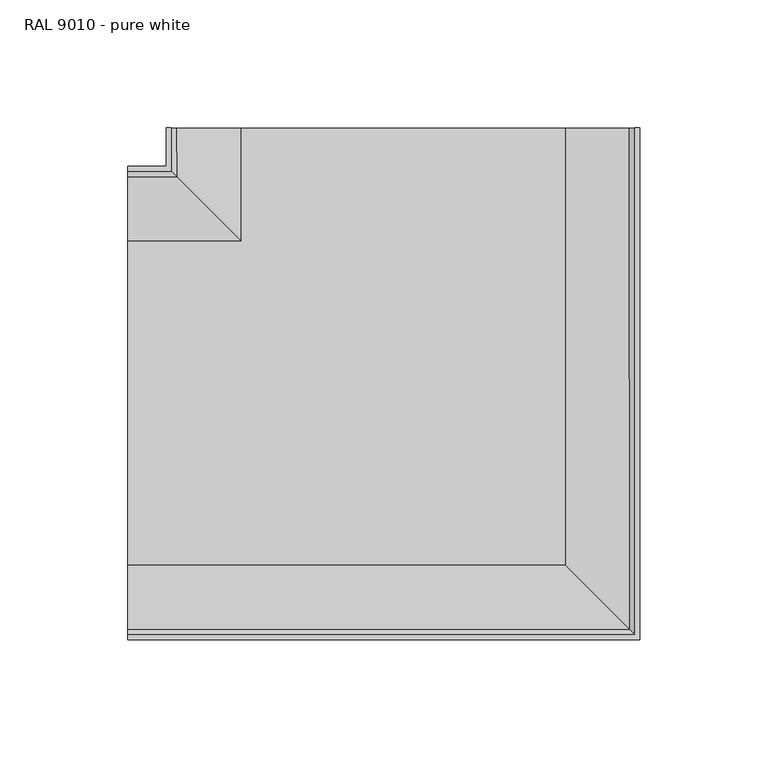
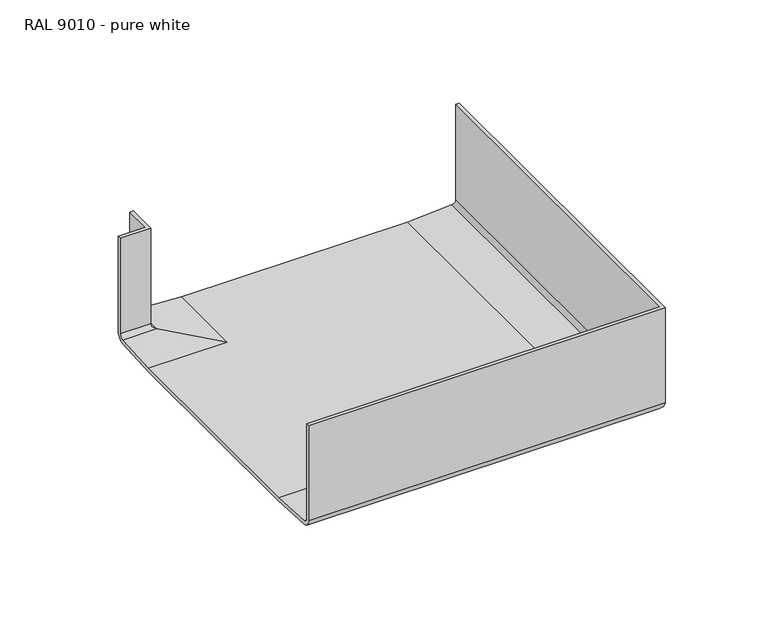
"""IFC4 building model written with IfcOpenShell, lengths in millimetres: cable carrier fitting geometry, Electrical_Installations_Hager_GBD-Flat-Corner-Vertical-Inside-And-Outside-Bend-Curved : RAL 9010 - pure white."""

from ifc_helpers import new_model, si_unit, frame, origin, place, context, project, spatial, polyline, circle_curve, ellipse_curve, source, transform, mapped, element, save
from ifc_brep_helpers import plane_surface, cylinder_surface, revolved_surface, advanced_brep


def ral_9010_pure_white_58f84067(model_context):
    return source(origin(), model_context, "Body", "AdvancedBrep", [
        advanced_brep(
        [(-107.5, 62.3133024, -34.957916), (-107.5, -62.3629789, -34.957916), (-107.5, -88.4370768, -33.406396), (-107.5, -92.5248383, -29.0681648), (-107.5, -92.5248383, 27.521231), (-107.5, -90.5727353, 27.521231), (-107.5, -90.5727353, -29.0681648), (-107.5, -88.4329395, -31.4049977), (-107.5, -63.3540421, -32.926666), (-107.5, 63.3043655, -32.926666), (-107.5, 88.319149, -31.4097682), (-107.5, 90.5139434, -29.0681648), (-107.5, 90.5139434, 27.6254199), (-107.5, 92.4751617, 27.6254199), (-107.5, 92.4751617, -29.0681648), (-107.5, 88.511084, -33.3972636), (-62.3133024, 62.3133024, -34.957916), (-62.3133024, 107.5, -34.957916), (62.3629789, 107.5, -34.957916), (62.3629789, -62.3629789, -34.957916), (88.4370768, -88.4370768, -33.406396), (92.5248383, -92.5248383, -29.0681648), (92.5248383, -92.5248383, 27.521231), (92.5248383, 107.5, 27.521231), (90.5727353, 107.5, 27.521231), (90.5727353, -90.5727353, 27.521231), (90.5727353, -90.5727353, -29.0681648), (88.4329395, -88.4329395, -31.4049977), (63.3540421, -63.3540421, -32.926666), (63.3540421, 107.5, -32.926666), (-63.3043655, 107.5, -32.926666), (-63.3043655, 63.3043655, -32.926666), (-88.319149, 88.319149, -31.4097682), (-90.5139434, 90.5139434, -29.0681648), (-90.5139434, 90.5139434, 27.6254199), (-90.5139434, 107.5, 27.6254199), (-92.4751617, 107.5, 27.6254199), (-92.4751617, 92.4751617, 27.6254199), (-92.4751617, 92.4751617, -29.0681648), (-88.511084, 88.511084, -33.3972636), (-88.3874003, 107.5, -33.406396), (-92.4751617, 107.5, -29.0681648), (-90.5139434, 107.5, -29.0681648), (-88.3741476, 107.5, -31.4049977), (88.3688255, 107.5, -31.4097682), (90.5727353, 107.5, -29.0681648), (92.5248383, 107.5, -29.0681648), (88.5607605, 107.5, -33.3972636)],
        [
            (0, 1),
            (1, 2, circle_curve(frame((-107.5, -58.0707654, 257.0450878), z_axis=(-1.0, 0.0, 0.0), x_axis=(0.0, 0.0, 1.0)), 292.0345481)),
            (2, 3, circle_curve(frame((-107.5, -88.1789336, -29.0681648), z_axis=(-1.0, 0.0, 0.0), x_axis=(0.0, 0.0, 1.0)), 4.3459047)),
            (3, 4),
            (4, 5),
            (5, 6),
            (6, 7, circle_curve(frame((-107.5, -88.2268306, -29.0681648), z_axis=(1.0, 0.0, 0.0), x_axis=(0.0, 0.0, 1.0)), 2.3459047)),
            (7, 8, circle_curve(frame((-107.5, -58.8389631, 248.5451055), z_axis=(1.0, 0.0, 0.0), x_axis=(0.0, 0.0, 1.0)), 281.5079822)),
            (8, 9),
            (9, 10, circle_curve(frame((-107.5, 58.7892866, 248.5451055), z_axis=(1.0, 0.0, 0.0), x_axis=(0.0, 0.0, 1.0)), 281.5079822)),
            (10, 11, circle_curve(frame((-107.5, 88.1680387, -29.0681648), z_axis=(1.0, 0.0, 0.0), x_axis=(0.0, 0.0, 1.0)), 2.3459047)),
            (11, 12),
            (12, 13),
            (13, 14),
            (14, 15, circle_curve(frame((-107.5, 88.129257, -29.0681648), z_axis=(-1.0, 0.0, 0.0), x_axis=(0.0, 0.0, 1.0)), 4.3459047)),
            (15, 0, circle_curve(frame((-107.5, 58.0210889, 257.0450878), z_axis=(-1.0, 0.0, 0.0), x_axis=(0.0, 0.0, 1.0)), 292.0345481)),
            (0, 16),
            (16, 17),
            (17, 18),
            (18, 19),
            (19, 1),
            (19, 20, ellipse_curve(frame((58.0707654, -58.0707654, 257.0450878), z_axis=(-0.7071067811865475, -0.7071067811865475, 0.0), x_axis=(-0.7071067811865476, 0.7071067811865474, 0.0)), 412.9992186, 292.0345481)),
            (20, 2),
            (20, 21, ellipse_curve(frame((88.1789336, -88.1789336, -29.0681648), z_axis=(-0.7071067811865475, -0.7071067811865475, 0.0), x_axis=(-0.7071067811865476, 0.7071067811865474, 0.0)), 6.1460374, 4.3459047)),
            (21, 3),
            (21, 22),
            (22, 4),
            (22, 23),
            (23, 24),
            (24, 25),
            (25, 5),
            (25, 26),
            (26, 6),
            (26, 27, ellipse_curve(frame((88.2268306, -88.2268306, -29.0681648), z_axis=(0.7071067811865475, 0.7071067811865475, 0.0), x_axis=(0.7071067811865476, -0.7071067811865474, 0.0)), 3.3176103, 2.3459047)),
            (27, 7),
            (27, 28, ellipse_curve(frame((58.8389631, -58.8389631, 248.5451055), z_axis=(0.7071067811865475, 0.7071067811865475, 0.0), x_axis=(0.7071067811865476, -0.7071067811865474, 0.0)), 398.1124064, 281.5079822)),
            (28, 8),
            (28, 29),
            (29, 30),
            (30, 31),
            (31, 9),
            (31, 32, ellipse_curve(frame((-58.7892866, 58.7892866, 248.5451055), z_axis=(0.7071067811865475, 0.7071067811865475, 0.0), x_axis=(0.7071067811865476, -0.7071067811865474, 0.0)), 398.1124064, 281.5079822)),
            (32, 10),
            (32, 33, ellipse_curve(frame((-88.1680387, 88.1680387, -29.0681648), z_axis=(0.7071067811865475, 0.7071067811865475, 0.0), x_axis=(0.7071067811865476, -0.7071067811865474, 0.0)), 3.3176103, 2.3459047)),
            (33, 11),
            (33, 34),
            (34, 12),
            (34, 35),
            (35, 36),
            (36, 37),
            (37, 13),
            (37, 38),
            (38, 14),
            (38, 39, ellipse_curve(frame((-88.129257, 88.129257, -29.0681648), z_axis=(-0.7071067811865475, -0.7071067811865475, 0.0), x_axis=(-0.7071067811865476, 0.7071067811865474, 0.0)), 6.1460374, 4.3459047)),
            (39, 15),
            (39, 16, ellipse_curve(frame((-58.0210889, 58.0210889, 257.0450878), z_axis=(-0.7071067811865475, -0.7071067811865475, 0.0), x_axis=(-0.7071067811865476, 0.7071067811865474, 0.0)), 412.9992186, 292.0345481)),
            (17, 40, circle_curve(frame((-58.0210889, 107.5, 257.0450878), z_axis=(0.0, 1.0, 0.0), x_axis=(0.0, 0.0, 1.0)), 292.0345481)),
            (40, 41, circle_curve(frame((-88.129257, 107.5, -29.0681648), z_axis=(0.0, 1.0, 0.0), x_axis=(0.0, 0.0, 1.0)), 4.3459047)),
            (41, 36),
            (35, 42),
            (42, 43, circle_curve(frame((-88.1680387, 107.5, -29.0681648), z_axis=(0.0, -1.0, 0.0), x_axis=(0.0, 0.0, 1.0)), 2.3459047)),
            (43, 30, circle_curve(frame((-58.7892866, 107.5, 248.5451055), z_axis=(0.0, -1.0, 0.0), x_axis=(0.0, 0.0, 1.0)), 281.5079822)),
            (29, 44, circle_curve(frame((58.8389631, 107.5, 248.5451055), z_axis=(0.0, -1.0, 0.0), x_axis=(0.0, 0.0, 1.0)), 281.5079822)),
            (44, 45, circle_curve(frame((88.2268306, 107.5, -29.0681648), z_axis=(0.0, -1.0, 0.0), x_axis=(0.0, 0.0, 1.0)), 2.3459047)),
            (45, 24),
            (23, 46),
            (46, 47, circle_curve(frame((88.1789336, 107.5, -29.0681648), z_axis=(0.0, 1.0, 0.0), x_axis=(0.0, 0.0, 1.0)), 4.3459047)),
            (47, 18, circle_curve(frame((58.0707654, 107.5, 257.0450878), z_axis=(0.0, 1.0, 0.0), x_axis=(0.0, 0.0, 1.0)), 292.0345481)),
            (47, 20),
            (46, 21),
            (45, 26),
            (44, 27),
            (43, 32),
            (42, 33),
            (41, 38),
            (40, 39),
        ],
        [
            plane_surface(frame((-107.5, 0.0, 0.0), z_axis=(-1.0, 0.0, 0.0), x_axis=(0.0, 0.0, 1.0))),
            plane_surface(frame((-107.5, 62.3133024, -34.957916), z_axis=(0.0, 0.0, -1.0), x_axis=(1.0, 0.0, 0.0))),
            cylinder_surface(frame((-107.5, -58.0707654, 257.0450878), z_axis=(-1.0, 0.0, 0.0), x_axis=(0.0, 0.0, 1.0)), 292.0345481),
            cylinder_surface(frame((-107.5, -88.1789336, -29.0681648), z_axis=(-1.0, 0.0, 0.0), x_axis=(0.0, 0.0, 1.0)), 4.3459047),
            plane_surface(frame((-107.5, -92.5248383, -29.0681648), z_axis=(0.0, -1.0, 0.0), x_axis=(1.0, 0.0, 0.0))),
            plane_surface(frame((-107.5, -92.5248383, 27.521231), z_axis=(0.0, 0.0, 1.0), x_axis=(1.0, 0.0, 0.0))),
            plane_surface(frame((-107.5, -90.5727353, 27.521231), z_axis=(0.0, 1.0, 0.0), x_axis=(1.0, 0.0, 0.0))),
            revolved_surface(polyline([(90.57273534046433, -88.2268306, -26.7222601), (-107.5, -88.2268306, -26.7222601)]), (-107.5, -88.2268306, -29.0681648), (1.0, 0.0, 0.0)),
            revolved_surface(polyline([(340.3469453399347, -58.8389631, 530.0530877), (-222.66901913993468, -58.8389631, 530.0530877)]), (-107.5, -58.8389631, 248.5451055), (1.0, 0.0, 0.0)),
            plane_surface(frame((-107.5, -63.3540421, -32.926666), z_axis=(0.0, 0.0, 1.0), x_axis=(1.0, 0.0, 0.0))),
            revolved_surface(polyline([(222.7186956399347, 58.7892866, 530.0530877), (-340.29726883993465, 58.7892866, 530.0530877)]), (-107.5, 58.7892866, 248.5451055), (1.0, 0.0, 0.0)),
            revolved_surface(polyline([(-85.82213395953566, 88.1680387, -26.7222601), (-107.5, 88.1680387, -26.7222601)]), (-107.5, 88.1680387, -29.0681648), (1.0, 0.0, 0.0)),
            plane_surface(frame((-107.5, 90.5139434, -29.0681648), z_axis=(0.0, -1.0, 0.0), x_axis=(1.0, 0.0, 0.0))),
            plane_surface(frame((-107.5, 90.5139434, 27.6254199), z_axis=(0.0, 0.0, 1.0), x_axis=(1.0, 0.0, 0.0))),
            plane_surface(frame((-107.5, 92.4751617, 27.6254199), z_axis=(0.0, 1.0, 0.0), x_axis=(1.0, 0.0, 0.0))),
            cylinder_surface(frame((-107.5, 88.129257, -29.0681648), z_axis=(-1.0, 0.0, 0.0), x_axis=(0.0, 0.0, 1.0)), 4.3459047),
            cylinder_surface(frame((-107.5, 58.0210889, 257.0450878), z_axis=(-1.0, 0.0, 0.0), x_axis=(0.0, 0.0, 1.0)), 292.0345481),
            plane_surface(frame((0.0, 107.5, 0.0), z_axis=(0.0, 1.0, 0.0), x_axis=(0.0, 0.0, 1.0))),
            cylinder_surface(frame((58.0707654, 0.0, 257.0450878), z_axis=(0.0, -1.0, 0.0), x_axis=(0.0, 0.0, 1.0)), 292.0345481),
            cylinder_surface(frame((88.1789336, 0.0, -29.0681648), z_axis=(0.0, -1.0, 0.0), x_axis=(0.0, 0.0, 1.0)), 4.3459047),
            plane_surface(frame((92.5248383, -92.5248383, -29.0681648), z_axis=(1.0, 0.0, 0.0), x_axis=(0.0, 1.0, 0.0))),
            plane_surface(frame((90.5727353, -90.5727353, 27.521231), z_axis=(-1.0, 0.0, 0.0), x_axis=(0.0, 1.0, 0.0))),
            revolved_surface(polyline([(88.2268306, 107.5, -26.7222601), (88.2268306, -90.57273534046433, -26.7222601)]), (88.2268306, 0.0, -29.0681648), (0.0, 1.0, 0.0)),
            revolved_surface(polyline([(58.8389631, 222.66901913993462, 530.0530877), (58.8389631, -340.3469453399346, 530.0530877)]), (58.8389631, 0.0, 248.5451055), (0.0, 1.0, 0.0)),
            revolved_surface(polyline([(-58.7892866, 340.29726883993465, 530.0530877), (-58.7892866, -222.71869563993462, 530.0530877)]), (-58.7892866, 0.0, 248.5451055), (0.0, 1.0, 0.0)),
            revolved_surface(polyline([(-88.1680387, 107.5, -26.7222601), (-88.1680387, 85.82213395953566, -26.7222601)]), (-88.1680387, 0.0, -29.0681648), (0.0, 1.0, 0.0)),
            plane_surface(frame((-90.5139434, 90.5139434, -29.0681648), z_axis=(1.0, 0.0, 0.0), x_axis=(0.0, 1.0, 0.0))),
            plane_surface(frame((-92.4751617, 92.4751617, 27.6254199), z_axis=(-1.0, 0.0, 0.0), x_axis=(0.0, 1.0, 0.0))),
            cylinder_surface(frame((-88.129257, 0.0, -29.0681648), z_axis=(0.0, -1.0, 0.0), x_axis=(0.0, 0.0, 1.0)), 4.3459047),
            cylinder_surface(frame((-58.0210889, 0.0, 257.0450878), z_axis=(0.0, -1.0, 0.0), x_axis=(0.0, 0.0, 1.0)), 292.0345481),
        ],
        [
            (0, [[1, 2, 3, 4, 5, 6, 7, 8, 9, 10, 11, 12, 13, 14, 15, 16]]),
            (1, [[-1, 17, 18, 19, 20, 21]]),
            (2, [[-2, -21, 22, 23]]),
            (3, [[-3, -23, 24, 25]]),
            (4, [[-4, -25, 26, 27]]),
            (5, [[-5, -27, 28, 29, 30, 31]]),
            (6, [[-6, -31, 32, 33]]),
            (7, [[-7, -33, 34, 35]]),
            (8, [[-8, -35, 36, 37]]),
            (9, [[-9, -37, 38, 39, 40, 41]]),
            (10, [[-10, -41, 42, 43]]),
            (11, [[-11, -43, 44, 45]]),
            (12, [[-12, -45, 46, 47]]),
            (13, [[-13, -47, 48, 49, 50, 51]]),
            (14, [[-14, -51, 52, 53]]),
            (15, [[-15, -53, 54, 55]]),
            (16, [[-16, -55, 56, -17]]),
            (17, [[57, 58, 59, -49, 60, 61, 62, -39, 63, 64, 65, -29, 66, 67, 68, -19]]),
            (18, [[-22, -20, -68, 69]]),
            (19, [[-24, -69, -67, 70]]),
            (20, [[-26, -70, -66, -28]]),
            (21, [[-32, -30, -65, 71]]),
            (22, [[-34, -71, -64, 72]]),
            (23, [[-36, -72, -63, -38]]),
            (24, [[-42, -40, -62, 73]]),
            (25, [[-44, -73, -61, 74]]),
            (26, [[-46, -74, -60, -48]]),
            (27, [[-52, -50, -59, 75]]),
            (28, [[-54, -75, -58, 76]]),
            (29, [[-56, -76, -57, -18]]),
        ],
    ),
    ])


if __name__ == "__main__":
    model = new_model("IFC4")
    model_context = context("Model", 3, world=origin())
    ifc_project = project(units=[si_unit("LENGTHUNIT", "METRE", prefix="MILLI")], contexts=[model_context])
    site = spatial("IfcSite", under=ifc_project)
    building = spatial("IfcBuilding", under=site)
    placement = place(None, origin())
    ral_9010_pure_white_shape = ral_9010_pure_white_58f84067(model_context)
    element("IfcCableCarrierFitting", 1, ObjectType="Electrical_Installations_Hager_GBD-Flat-Corner-Vertical-Inside-And-Outside-Bend-Curved : RAL 9010 - pure white", at=placement, inside=building, context=model_context, shape_type="MappedRepresentation", body=[
        mapped(ral_9010_pure_white_shape, transform((0.0, 0.0, 0.0), x_axis=(1.0, 0.0, 0.0), y_axis=(0.0, 1.0, 0.0), z_axis=(0.0, 0.0, 1.0))),
    ])
    save(model, "model.ifc")
